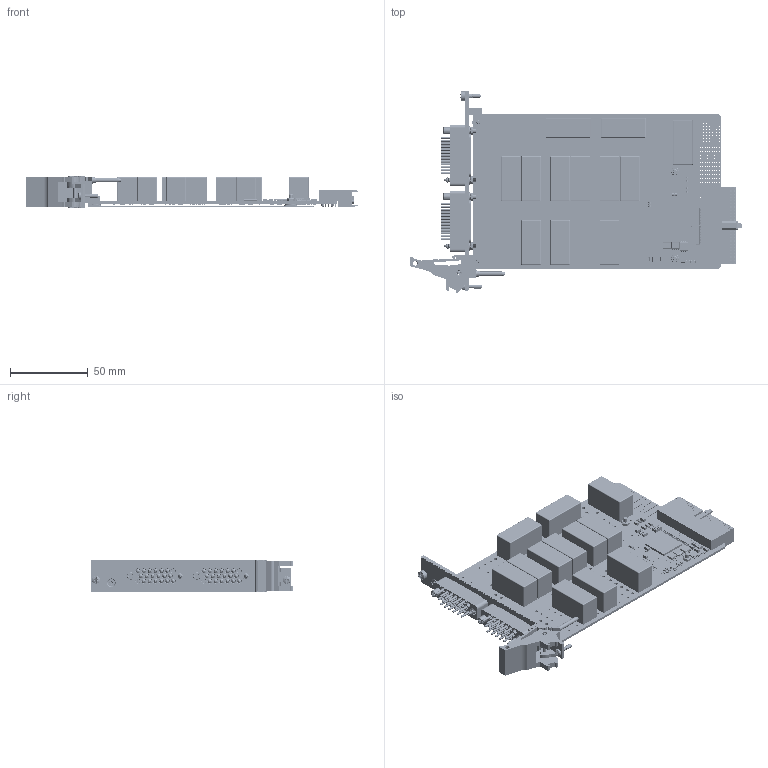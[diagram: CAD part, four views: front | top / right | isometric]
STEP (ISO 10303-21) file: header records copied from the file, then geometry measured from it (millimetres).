
FILE_DESCRIPTION (( 'STEP AP214' ), '1' );
FILE_NAME ('40-161A-101 PXI 12xSPDT 16A Power EMR Module.STEP', '2022-05-19T09:17:27', ( '' ), ( '' ), 'SwSTEP 2.0', 'SolidWorks 2021', '' );
FILE_SCHEMA (( 'AUTOMOTIVE_DESIGN' ));
Length unit declared in the file: millimetre
Products named in the file (68): C-FX-165 CPCI Ejector Handle; C-BP-015 PXI 3U x 1 Slot Blank Panel; C-RS-659 RES NW 4K7 4RES 8PINS SMT1206; C-FX-028 Nut, M2.5, Hex, Steel, BZP_C-FX-028 M2,5 Nut; A-PC-1459-V01 6xDPDT 16A Power EMR Mother; C-CP-239  Power Line Filter; L-FX-165 PXI Handle Label; A-FP-270 PXI 1 Slot 2 x MS Power Connector FP + Label Assy; C-RS-521 Res 120R (0603) 1-16W 1% 100pp; C-CN-502 female Mount pin; C-RS-147 Res 100R 0603 1-16W 1% 100PPM; C-RS-1487 RES 100k 0.1W 25PPM 0603; C-IC-158 Buffer 3-State SOT-23 5-Pin; L-FP-270-# PXI 1 Slot 2 x MS Power Connector FP Label; C-SC-146 Dual Transistor SOT-14; C-CN-355 Compact pci connector 3_Render; C-IC-369 FPGA 17000 Cells 65nm Technology 1.2V 256-Pin FTBGA; C-CP-099 CAP 0.1uF 16V 0402 SMT; C-FX-165 Handle Body; C-CN-107-PIN; C-RS-152 Res 10K 0603 1-16W 1% 300PPM; C-CP-141 CAP 10UF 1206 35V X5R 10%; C-CP-130 CAP 1uF CERAMIC SMT 0603; C-IC-598 64Mbit Flash Memory 8-Pin SOIC; C-PC-1459 16A Power EMR Mother; C-FP-270 FP PXI 1-Slot 2xMS Power Cons; C-FX-101 Screw, M2.5 x 6, Pan Hd, Pozi, Steel, BZP_ISO 7045 - M2.5 x 6 - Z --- 6N; P-FX-017 M2,5 Collar Posi-Slot Screw; C-IC-310 SOT353 SD; C-CP-124 CAP 10nF CERAMIC SMT 0402; C-IC-550 Voltage Difference Amplifier; C-FX-1181 Low Profile L Shaped Reversed Mounting Block; C-CN-1071; C-IC-489 F-RAM Semiconductor Serial-I2C FRAM Memory 512kbit 2-3.6 V 8-Pin SOIC; C-RL-314 SPDT 16A 5V Relay; C-SC-055 Zener Diode; Z-FX-2001 FP Fixing - Bush + Screw; C-CP-175 CAP 22uF 1206 25V X5R 10%; C-FX-495 Countersunk cross screw 2.5 X 8_C-FX-495 Countersunk cross screw 2.5 X 8; C-IC-442 VSSOP 8PIN SD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
Assembly tree (246 placements, depth 5):
  40-161A-101 PXI 12xSPDT 16A Power EMR Module
    A-PC-1459-V01 6xDPDT 16A Power EMR Mother
      A-PC-1459-V01-# 6xDPDT 16A Power EMR Mother
        C-PC-1459 16A Power EMR Mother
        C-CN-355 Compact pci connector 3_Render
        C-RS-190 Res 0R0 SIZE 0603 SMT  x3
        C-SC-055 Zener Diode  x16
        C-IC-550 Voltage Difference Amplifier  x2
        C-RL-314 SPDT 16A 5V Relay  x12
        C-SC-056 80V 250mA (DC) SOD323 Diode  x16
        C-CP-239  Power Line Filter  x4
        C-CP-141 CAP 10UF 1206 35V X5R 10%  x8
        C-CP-034  x21
        C-CP-175 CAP 22uF 1206 25V X5R 10%  x2
        C-IC-158 Buffer 3-State SOT-23 5-Pin
        C-IC-548 1-Bit Flip-Flop 8-Pin SM8
        C-IC-310 SOT353 SD
        C-RS-1487 RES 100k 0.1W 25PPM 0603
        C-RS-152 Res 10K 0603 1-16W 1% 300PPM  x4
        C-RS-147 Res 100R 0603 1-16W 1% 100PPM
        C-CP-033 Capacitor 10nF SMT 0603
        C-CP-099 CAP 0.1uF 16V 0402 SMT  x12
        C-IC-489 F-RAM Semiconductor Serial-I2C FRAM Memory 512kbit 2-3.6 V 8-Pin SOIC
        C-IC-425 SOICN 8PIN SD
        C-IC-598 64Mbit Flash Memory 8-Pin SOIC
        C-IC-442 VSSOP 8PIN SD
        C-IC-458 LDO VOLTAGE REGULATOR 1.2V SOT
        C-IC-546 24 BIT BUS SWITCH 56PIN TVSOP  x2
        C-IC-369 FPGA 17000 Cells 65nm Technology 1.2V 256-Pin FTBGA
        C-RS-148 Res 1K 0603 1-16W 1% 100PPM  x2
        C-RS-659 RES NW 4K7 4RES 8PINS SMT1206  x4
        C-RS-521 Res 120R (0603) 1-16W 1% 100pp
        C-SC-146 Dual Transistor SOT-14  x2
        C-MS-803 BEAD 120R 0603 2A 0R05 25%  x2
        C-CN-1071
          C-CN-107-BODY
          C-CN-107-PIN  x8
        C-CP-124 CAP 10nF CERAMIC SMT 0402  x29
        C-CP-130 CAP 1uF CERAMIC SMT 0603  x2
        C-CP-139 CAP 4.7UF 1206 16V X7R 10%  x2
    A-FP-270-L1 FP FUll Assy
      A-FP-270 PXI 1 Slot 2 x MS Power Connector FP + Label Assy
        C-FP-270 FP PXI 1-Slot 2xMS Power Cons
          C-BP-015 PXI 3U x 1 Slot Blank Panel
        L-FP-270 PXI 1 Slot 2 x MS Power Connector FP Label assy
          L-FP-270-# PXI 1 Slot 2 x MS Power Connector FP Label
      C-FX-165 CPCI Ejector Handle
        C-FX-165 Handle Body
        C-FX-165 Handle Finger
        C-FX-165 Handle Pin
        P-FX-017 M2,5 Collar Posi-Slot Screw
        L-FX-165 PXI Handle Label
      Z-FX-2001 FP Fixing - Bush + Screw
        C-BK-026 Bush Front Panel Mounting
        P-FX-017 M2,5 Collar Posi-Slot Screw
      C-FX-1181 Low Profile L Shaped Reversed Mounting Block
      C-FX-042 Screw M2.5x6 CSK Pozi_M 2.5x06 - C-FX-042
      C-FX-101 Screw, M2.5 x 6, Pan Hd, Pozi, Steel, BZP_ISO 7045 - M2.5 x 6 - Z --- 6N
    C-CN-502  Positronic Connector Assembly  x2
      C-CN-502  Positronic Connector Body
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Bounding box: 213.7 x 129.63 x 20 mm (x, y, z)
Volume: 133213.5 mm3; surface area: 133795.9 mm2
Topology: 246 solids, 269 shells, 18585 faces, 45063 edges, 27797 vertices
Faces by surface type: plane 10131, cylinder 5772, torus 1314, cone 771, sphere 310, bspline 287
Entity records: 383644 total; most frequent: CARTESIAN_POINT 58775, DIRECTION 53298, ORIENTED_EDGE 49324, EDGE_CURVE 24666, AXIS2_PLACEMENT_3D 18996, VERTEX_POINT 15525, VECTOR 15306, LINE 15306
